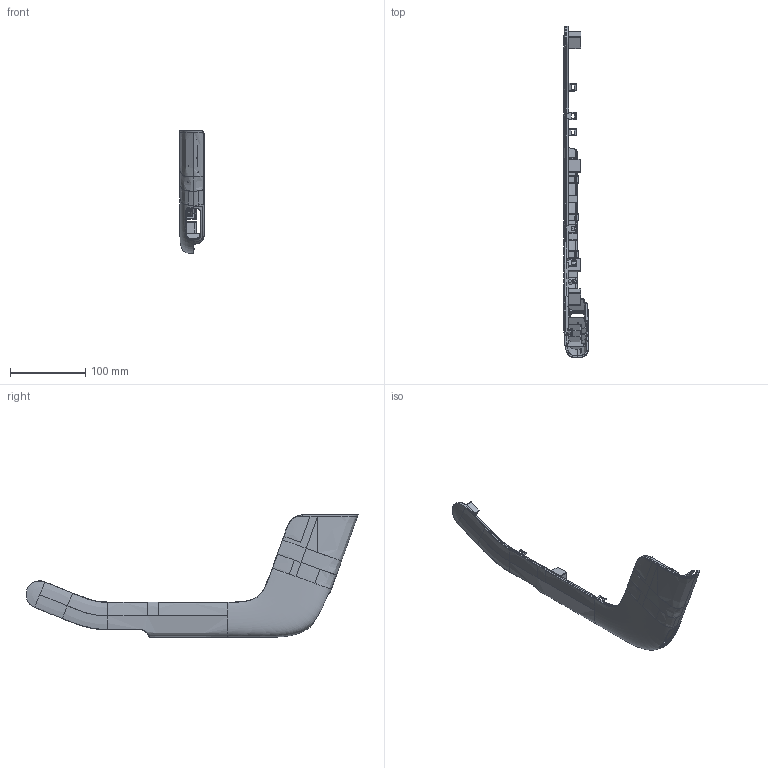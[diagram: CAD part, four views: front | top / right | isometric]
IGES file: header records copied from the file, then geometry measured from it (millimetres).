
Start section:  PTC IGES file: yc_sj_zs001301_01.igs
Global section: file name: yc_sj_zs001301_01.igs; native system: Creo Parametric by PTC Inc.; preprocessor: 2022164; author: casson.cai; organization: Unknown; date: 20260320.105518; units: millimetre
Bounding box: 32.3 x 442.31 x 163.62 mm (x, y, z)
Surface area: 97312.8 mm2 (no closed solid volume)
Topology: 0 solids, 0 shells, 994 faces, 5574 edges, 5572 vertices
Faces by surface type: bspline 758, revolution 126, extrusion 110
